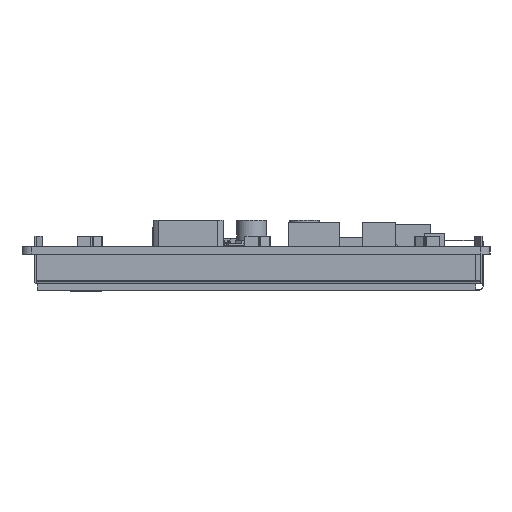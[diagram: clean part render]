
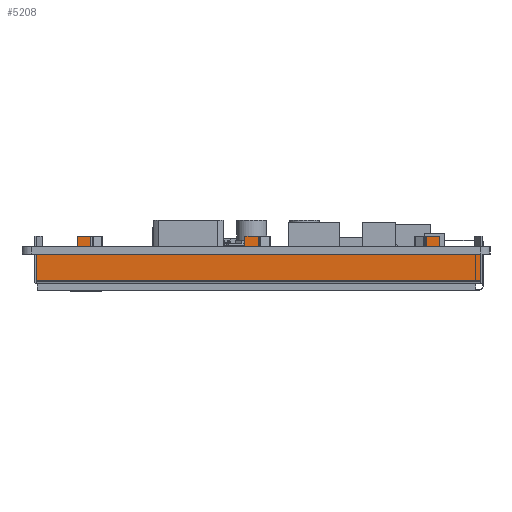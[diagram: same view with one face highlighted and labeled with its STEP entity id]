
A CAD part, left-side view. The second image highlights one B-rep face of the part: STEP entity #5208.
In plain terms, the highlighted planar face has unit normal (-1, 0, 0).
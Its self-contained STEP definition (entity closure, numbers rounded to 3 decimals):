
#5208=ADVANCED_FACE('',(#9828),#7337,.F.);
#7337=PLANE('',#56704);
#9828=FACE_OUTER_BOUND('',#12468,.T.);
#12468=EDGE_LOOP('',(#26165,#26166,#26167,#26168,#26169,#26170,#26171,#26172,
#26173,#26174,#26175,#26176,#26177,#26178,#26179,#26180,#26181,#26182,#26183));
#26165=ORIENTED_EDGE('',*,*,#38729,.T.);
#26166=ORIENTED_EDGE('',*,*,#38740,.T.);
#26167=ORIENTED_EDGE('',*,*,#38741,.F.);
#26168=ORIENTED_EDGE('',*,*,#38742,.T.);
#26169=ORIENTED_EDGE('',*,*,#38743,.F.);
#26170=ORIENTED_EDGE('',*,*,#38727,.T.);
#26171=ORIENTED_EDGE('',*,*,#38744,.T.);
#26172=ORIENTED_EDGE('',*,*,#38745,.F.);
#26173=ORIENTED_EDGE('',*,*,#38746,.F.);
#26174=ORIENTED_EDGE('',*,*,#38747,.T.);
#26175=ORIENTED_EDGE('',*,*,#38735,.T.);
#26176=ORIENTED_EDGE('',*,*,#38748,.T.);
#26177=ORIENTED_EDGE('',*,*,#38749,.F.);
#26178=ORIENTED_EDGE('',*,*,#38750,.F.);
#26179=ORIENTED_EDGE('',*,*,#38751,.T.);
#26180=ORIENTED_EDGE('',*,*,#38739,.T.);
#26181=ORIENTED_EDGE('',*,*,#38752,.F.);
#26182=ORIENTED_EDGE('',*,*,#38753,.F.);
#26183=ORIENTED_EDGE('',*,*,#38754,.T.);
#31636=VERTEX_POINT('',#84412);
#31638=VERTEX_POINT('',#84416);
#31639=VERTEX_POINT('',#84420);
#31641=VERTEX_POINT('',#84423);
#31644=VERTEX_POINT('',#84430);
#31646=VERTEX_POINT('',#84434);
#31648=VERTEX_POINT('',#84439);
#31650=VERTEX_POINT('',#84443);
#31651=VERTEX_POINT('',#84447);
#31652=VERTEX_POINT('',#84449);
#31653=VERTEX_POINT('',#84451);
#31654=VERTEX_POINT('',#84454);
#31655=VERTEX_POINT('',#84456);
#31656=VERTEX_POINT('',#84458);
#31657=VERTEX_POINT('',#84461);
#31658=VERTEX_POINT('',#84463);
#31659=VERTEX_POINT('',#84465);
#31660=VERTEX_POINT('',#84468);
#31661=VERTEX_POINT('',#84470);
#38727=EDGE_CURVE('',#31636,#31638,#46212,.T.);
#38729=EDGE_CURVE('',#31641,#31639,#46214,.T.);
#38735=EDGE_CURVE('',#31644,#31646,#46220,.T.);
#38739=EDGE_CURVE('',#31648,#31650,#46224,.T.);
#38740=EDGE_CURVE('',#31639,#31651,#46225,.T.);
#38741=EDGE_CURVE('',#31652,#31651,#46226,.T.);
#38742=EDGE_CURVE('',#31652,#31653,#46227,.T.);
#38743=EDGE_CURVE('',#31636,#31653,#46228,.T.);
#38744=EDGE_CURVE('',#31638,#31654,#46229,.T.);
#38745=EDGE_CURVE('',#31655,#31654,#46230,.T.);
#38746=EDGE_CURVE('',#31656,#31655,#46231,.T.);
#38747=EDGE_CURVE('',#31656,#31644,#46232,.T.);
#38748=EDGE_CURVE('',#31646,#31657,#46233,.T.);
#38749=EDGE_CURVE('',#31658,#31657,#46234,.T.);
#38750=EDGE_CURVE('',#31659,#31658,#46235,.T.);
#38751=EDGE_CURVE('',#31659,#31648,#46236,.T.);
#38752=EDGE_CURVE('',#31660,#31650,#46237,.T.);
#38753=EDGE_CURVE('',#31661,#31660,#46238,.T.);
#38754=EDGE_CURVE('',#31661,#31641,#46239,.T.);
#46212=LINE('',#84417,#52578);
#46214=LINE('',#84422,#52580);
#46220=LINE('',#84435,#52586);
#46224=LINE('',#84444,#52590);
#46225=LINE('',#84446,#52591);
#46226=LINE('',#84448,#52592);
#46227=LINE('',#84450,#52593);
#46228=LINE('',#84452,#52594);
#46229=LINE('',#84453,#52595);
#46230=LINE('',#84455,#52596);
#46231=LINE('',#84457,#52597);
#46232=LINE('',#84459,#52598);
#46233=LINE('',#84460,#52599);
#46234=LINE('',#84462,#52600);
#46235=LINE('',#84464,#52601);
#46236=LINE('',#84466,#52602);
#46237=LINE('',#84467,#52603);
#46238=LINE('',#84469,#52604);
#46239=LINE('',#84471,#52605);
#52578=VECTOR('',#69178,1.);
#52580=VECTOR('',#69182,1.);
#52586=VECTOR('',#69190,1.);
#52590=VECTOR('',#69196,1.);
#52591=VECTOR('',#69199,1.);
#52592=VECTOR('',#69200,1.);
#52593=VECTOR('',#69201,1.);
#52594=VECTOR('',#69202,1.);
#52595=VECTOR('',#69203,1.);
#52596=VECTOR('',#69204,1.);
#52597=VECTOR('',#69205,1.);
#52598=VECTOR('',#69206,1.);
#52599=VECTOR('',#69207,1.);
#52600=VECTOR('',#69208,1.);
#52601=VECTOR('',#69209,1.);
#52602=VECTOR('',#69210,1.);
#52603=VECTOR('',#69211,1.);
#52604=VECTOR('',#69212,1.);
#52605=VECTOR('',#69213,1.);
#56704=AXIS2_PLACEMENT_3D('',#84472,#69214,#69215);
#69178=DIRECTION('',(0.,1.,0.));
#69182=DIRECTION('',(0.,1.,0.));
#69190=DIRECTION('',(0.,1.,0.));
#69196=DIRECTION('',(0.,1.,0.));
#69199=DIRECTION('',(0.,0.,1.));
#69200=DIRECTION('',(0.,-1.,0.));
#69201=DIRECTION('',(0.,0.,-1.));
#69202=DIRECTION('',(0.,0.,1.));
#69203=DIRECTION('',(0.,0.,1.));
#69204=DIRECTION('',(0.,0.,-1.));
#69205=DIRECTION('',(0.,-1.,0.));
#69206=DIRECTION('',(0.,0.,-1.));
#69207=DIRECTION('',(0.,0.,1.));
#69208=DIRECTION('',(0.,0.,-1.));
#69209=DIRECTION('',(0.,-1.,0.));
#69210=DIRECTION('',(0.,0.,-1.));
#69211=DIRECTION('',(0.,0.,1.));
#69212=DIRECTION('',(0.,1.,0.));
#69213=DIRECTION('',(0.,0.,1.));
#69214=DIRECTION('',(1.,0.,0.));
#69215=DIRECTION('',(0.,1.,0.));
#84412=CARTESIAN_POINT('',(435.624,-41.014,-1.6));
#84416=CARTESIAN_POINT('',(435.624,-3.188,-1.6));
#84417=CARTESIAN_POINT('',(435.624,-53.245,-1.6));
#84420=CARTESIAN_POINT('',(435.624,-44.038,-1.6));
#84422=CARTESIAN_POINT('',(435.624,-53.245,-1.6));
#84423=CARTESIAN_POINT('',(435.624,-53.245,-1.6));
#84430=CARTESIAN_POINT('',(435.624,-0.18,-1.6));
#84434=CARTESIAN_POINT('',(435.624,34.5,-1.6));
#84435=CARTESIAN_POINT('',(435.624,-53.245,-1.6));
#84439=CARTESIAN_POINT('',(435.624,37.54,-1.6));
#84443=CARTESIAN_POINT('',(435.624,46.775,-1.6));
#84444=CARTESIAN_POINT('',(435.624,-53.245,-1.6));
#84446=CARTESIAN_POINT('',(435.624,-44.038,-1.6));
#84447=CARTESIAN_POINT('',(435.624,-44.038,2.4));
#84448=CARTESIAN_POINT('',(435.624,-41.014,2.4));
#84449=CARTESIAN_POINT('',(435.624,-41.014,2.4));
#84450=CARTESIAN_POINT('',(435.624,-41.014,2.4));
#84451=CARTESIAN_POINT('',(435.624,-41.014,0.));
#84452=CARTESIAN_POINT('',(435.624,-41.014,-1.6));
#84453=CARTESIAN_POINT('',(435.624,-3.188,-1.6));
#84454=CARTESIAN_POINT('',(435.624,-3.188,0.));
#84455=CARTESIAN_POINT('',(435.624,-3.188,2.4));
#84456=CARTESIAN_POINT('',(435.624,-3.188,2.4));
#84457=CARTESIAN_POINT('',(435.624,-0.18,2.4));
#84458=CARTESIAN_POINT('',(435.624,-0.18,2.4));
#84459=CARTESIAN_POINT('',(435.624,-0.18,2.4));
#84460=CARTESIAN_POINT('',(435.624,34.5,-1.6));
#84461=CARTESIAN_POINT('',(435.624,34.5,0.));
#84462=CARTESIAN_POINT('',(435.624,34.5,2.4));
#84463=CARTESIAN_POINT('',(435.624,34.5,2.4));
#84464=CARTESIAN_POINT('',(435.624,37.54,2.4));
#84465=CARTESIAN_POINT('',(435.624,37.54,2.4));
#84466=CARTESIAN_POINT('',(435.624,37.54,2.4));
#84467=CARTESIAN_POINT('',(435.624,46.775,-7.9));
#84468=CARTESIAN_POINT('',(435.624,46.775,-7.9));
#84469=CARTESIAN_POINT('',(435.624,-53.245,-7.9));
#84470=CARTESIAN_POINT('',(435.624,-53.245,-7.9));
#84471=CARTESIAN_POINT('',(435.624,-53.245,-7.9));
#84472=CARTESIAN_POINT('',(435.624,-53.245,-7.9));
